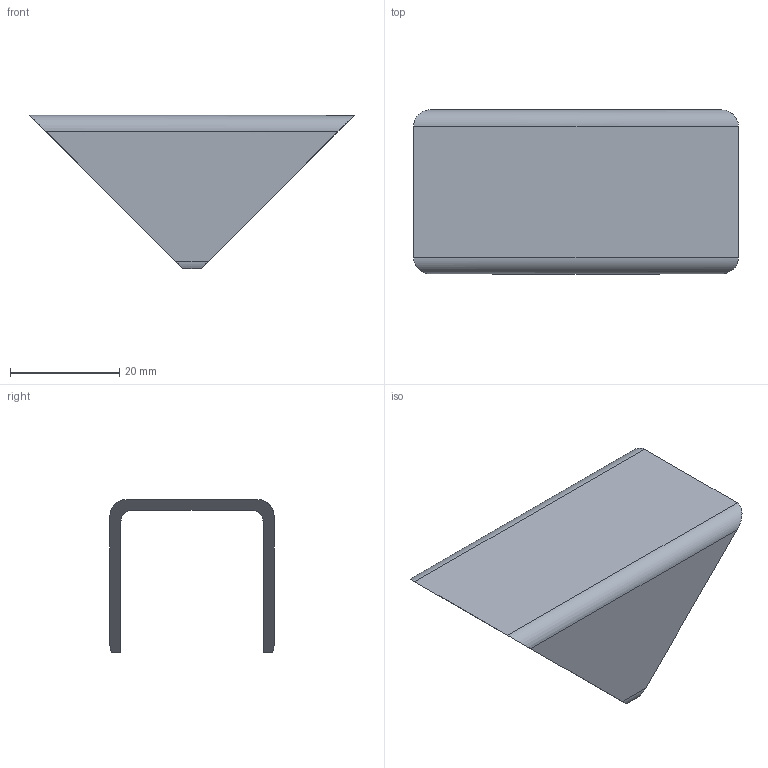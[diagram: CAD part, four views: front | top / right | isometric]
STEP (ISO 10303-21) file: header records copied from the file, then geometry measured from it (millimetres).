
FILE_DESCRIPTION (( 'STEP AP214' ), '1' );
FILE_NAME ('MONO_038-p209_02 (Option 2 - Cut Box Section).STEP', '2026-03-24T00:38:15', ( '' ), ( '' ), 'SwSTEP 2.0', 'SolidWorks 2024', '' );
FILE_SCHEMA (( 'AUTOMOTIVE_DESIGN' ));
Length unit declared in the file: millimetre
Products named in the file (1): MONO_038-p209_02 (Option 2 - Cut Box Section)
Bounding box: 59.4 x 30 x 28 mm (x, y, z)
Volume: 6369.4 mm3; surface area: 6726.4 mm2
Topology: 1 solids, 1 shells, 16 faces, 42 edges, 28 vertices
Faces by surface type: plane 10, cylinder 6
Entity records: 509 total; most frequent: CARTESIAN_POINT 123, ORIENTED_EDGE 84, DIRECTION 64, EDGE_CURVE 42, LINE 30, VECTOR 30, VERTEX_POINT 28, AXIS2_PLACEMENT_3D 17
